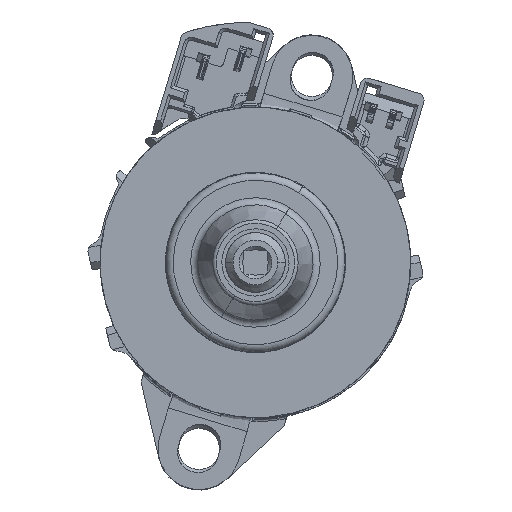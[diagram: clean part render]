
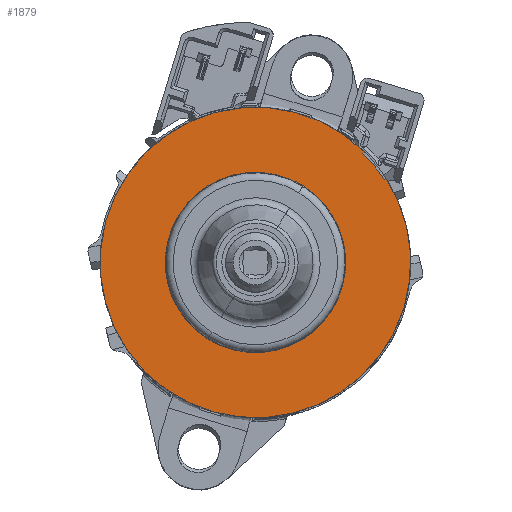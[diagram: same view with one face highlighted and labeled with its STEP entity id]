
A CAD part, left-side view. The second image highlights one B-rep face of the part: STEP entity #1879.
In plain terms, the highlighted planar face has unit normal (-1, 0, 0).
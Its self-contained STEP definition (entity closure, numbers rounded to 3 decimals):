
#65=FACE_BOUND('',#4851,.T.);
#66=FACE_BOUND('',#4852,.T.);
#864=CIRCLE('',#22739,20.775);
#951=CIRCLE('',#22897,20.775);
#957=CIRCLE('',#22906,20.502);
#1879=ADVANCED_FACE('',(#65,#66),#3035,.F.);
#3035=PLANE('',#22907);
#4851=EDGE_LOOP('',(#7368,#7369,#7370,#7371,#7372));
#4852=EDGE_LOOP('',(#7373,#7374));
#6107=B_SPLINE_CURVE_WITH_KNOTS('',5,(#33129,#33130,#33131,#33132,#33133,
#33134,#33135,#33136,#33137,#33138,#33139,#33140,#33141,#33142,#33143,#33144,
#33145,#33146,#33147,#33148,#33149,#33150,#33151,#33152),.UNSPECIFIED.,.F.,
 .F.,(6,3,3,3,3,3,3,6),(0.,0.155,0.305,0.455,
0.605,0.755,0.905,1.),.UNSPECIFIED.);
#6108=B_SPLINE_CURVE_WITH_KNOTS('',5,(#33155,#33156,#33157,#33158,#33159,
#33160,#33161,#33162,#33163,#33164,#33165,#33166,#33167,#33168,#33169,#33170,
#33171,#33172,#33173,#33174,#33175,#33176,#33177,#33178),.UNSPECIFIED.,.F.,
 .F.,(6,3,3,3,3,3,3,6),(0.,0.15,0.3,0.45,
0.6,0.75,0.9,1.),.UNSPECIFIED.);
#7368=ORIENTED_EDGE('',*,*,#16100,.F.);
#7369=ORIENTED_EDGE('',*,*,#16087,.F.);
#7370=ORIENTED_EDGE('',*,*,#15784,.F.);
#7371=ORIENTED_EDGE('',*,*,#16098,.F.);
#7372=ORIENTED_EDGE('',*,*,#16101,.F.);
#7373=ORIENTED_EDGE('',*,*,#16102,.T.);
#7374=ORIENTED_EDGE('',*,*,#16103,.T.);
#13550=VERTEX_POINT('',#31776);
#13551=VERTEX_POINT('',#31778);
#13775=VERTEX_POINT('',#33102);
#13783=VERTEX_POINT('',#33123);
#13784=VERTEX_POINT('',#33127);
#13785=VERTEX_POINT('',#33153);
#13786=VERTEX_POINT('',#33154);
#15784=EDGE_CURVE('GENERATED CIRCLE',#13550,#13551,#864,.T.);
#16087=EDGE_CURVE('GENERATED CIRCLE',#13551,#13775,#951,.T.);
#16098=EDGE_CURVE('LINE',#13783,#13550,#19216,.T.);
#16100=EDGE_CURVE('LINE',#13775,#13784,#19218,.T.);
#16101=EDGE_CURVE('GENERATED CIRCLE',#13784,#13783,#957,.T.);
#16102=EDGE_CURVE('',#13785,#13786,#6107,.T.);
#16103=EDGE_CURVE('',#13786,#13785,#6108,.T.);
#19216=LINE('',#33122,#21031);
#19218=LINE('',#33126,#21033);
#21031=VECTOR('',#25583,1.);
#21033=VECTOR('',#25587,1.);
#22739=AXIS2_PLACEMENT_3D('',#31777,#25117,#25118);
#22897=AXIS2_PLACEMENT_3D('',#33101,#25562,#25563);
#22906=AXIS2_PLACEMENT_3D('',#33128,#25588,#25589);
#22907=AXIS2_PLACEMENT_3D('',#33179,#25590,#25591);
#25117=DIRECTION('',(1.,0.,0.));
#25118=DIRECTION('',(0.,-0.924,-0.381));
#25562=DIRECTION('',(1.,0.,0.));
#25563=DIRECTION('',(0.,-0.924,-0.381));
#25583=DIRECTION('',(0.,-0.84,0.542));
#25587=DIRECTION('',(0.,0.701,-0.713));
#25588=DIRECTION('',(1.,0.,0.));
#25589=DIRECTION('',(0.,-0.924,-0.381));
#25590=DIRECTION('',(1.,0.,0.));
#25591=DIRECTION('',(0.,-0.957,-0.29));
#31776=CARTESIAN_POINT('',(-0.65,-17.459,11.259));
#31777=CARTESIAN_POINT('',(-0.65,0.,0.));
#31778=CARTESIAN_POINT('',(-0.65,14.816,-14.563));
#33101=CARTESIAN_POINT('',(-0.65,0.,0.));
#33102=CARTESIAN_POINT('',(-0.65,-14.564,14.816));
#33122=CARTESIAN_POINT('',(-0.65,-17.345,11.185));
#33123=CARTESIAN_POINT('',(-0.65,-17.23,11.111));
#33126=CARTESIAN_POINT('',(-0.65,-14.468,14.718));
#33127=CARTESIAN_POINT('',(-0.65,-14.372,14.621));
#33128=CARTESIAN_POINT('',(-0.65,0.,0.));
#33129=CARTESIAN_POINT('',(-0.65,-6.383,10.24));
#33130=CARTESIAN_POINT('',(-0.65,-7.383,9.617));
#33131=CARTESIAN_POINT('',(-0.65,-8.306,8.872));
#33132=CARTESIAN_POINT('',(-0.65,-9.134,8.017));
#33133=CARTESIAN_POINT('',(-0.65,-10.539,6.156));
#33134=CARTESIAN_POINT('',(-0.65,-11.464,4.017));
#33135=CARTESIAN_POINT('',(-0.65,-11.792,2.917));
#33136=CARTESIAN_POINT('',(-0.65,-12.182,0.661));
#33137=CARTESIAN_POINT('',(-0.65,-12.038,-1.623));
#33138=CARTESIAN_POINT('',(-0.65,-11.831,-2.752));
#33139=CARTESIAN_POINT('',(-0.65,-11.156,-4.94));
#33140=CARTESIAN_POINT('',(-0.65,-9.99,-6.91));
#33141=CARTESIAN_POINT('',(-0.65,-9.294,-7.822));
#33142=CARTESIAN_POINT('',(-0.65,-7.699,-9.464));
#33143=CARTESIAN_POINT('',(-0.65,-5.766,-10.691));
#33144=CARTESIAN_POINT('',(-0.65,-4.732,-11.188));
#33145=CARTESIAN_POINT('',(-0.65,-2.565,-11.928));
#33146=CARTESIAN_POINT('',(-0.65,-0.286,-12.144));
#33147=CARTESIAN_POINT('',(-0.65,0.861,-12.117));
#33148=CARTESIAN_POINT('',(-0.65,2.712,-11.852));
#33149=CARTESIAN_POINT('',(-0.65,4.471,-11.243));
#33150=CARTESIAN_POINT('',(-0.65,5.133,-10.956));
#33151=CARTESIAN_POINT('',(-0.65,5.773,-10.621));
#33152=CARTESIAN_POINT('',(-0.65,6.383,-10.24));
#33153=CARTESIAN_POINT('',(-0.65,-6.383,10.24));
#33154=CARTESIAN_POINT('',(-0.65,6.383,-10.24));
#33155=CARTESIAN_POINT('',(-0.65,6.383,-10.24));
#33156=CARTESIAN_POINT('',(-0.65,7.348,-9.639));
#33157=CARTESIAN_POINT('',(-0.65,8.242,-8.924));
#33158=CARTESIAN_POINT('',(-0.65,9.047,-8.106));
#33159=CARTESIAN_POINT('',(-0.65,10.45,-6.297));
#33160=CARTESIAN_POINT('',(-0.65,11.394,-4.212));
#33161=CARTESIAN_POINT('',(-0.65,11.74,-3.118));
#33162=CARTESIAN_POINT('',(-0.65,12.169,-0.869));
#33163=CARTESIAN_POINT('',(-0.65,12.064,1.418));
#33164=CARTESIAN_POINT('',(-0.65,11.877,2.55));
#33165=CARTESIAN_POINT('',(-0.65,11.239,4.748));
#33166=CARTESIAN_POINT('',(-0.65,10.107,6.738));
#33167=CARTESIAN_POINT('',(-0.65,9.426,7.662));
#33168=CARTESIAN_POINT('',(-0.65,7.86,9.332));
#33169=CARTESIAN_POINT('',(-0.65,5.948,10.591));
#33170=CARTESIAN_POINT('',(-0.65,4.922,11.105));
#33171=CARTESIAN_POINT('',(-0.65,2.769,11.882));
#33172=CARTESIAN_POINT('',(-0.65,0.494,12.137));
#33173=CARTESIAN_POINT('',(-0.65,-0.654,12.13));
#33174=CARTESIAN_POINT('',(-0.65,-2.55,11.892));
#33175=CARTESIAN_POINT('',(-0.65,-4.356,11.291));
#33176=CARTESIAN_POINT('',(-0.65,-5.06,10.994));
#33177=CARTESIAN_POINT('',(-0.65,-5.738,10.642));
#33178=CARTESIAN_POINT('',(-0.65,-6.383,10.24));
#33179=CARTESIAN_POINT('',(-0.65,-6.021,19.883));
